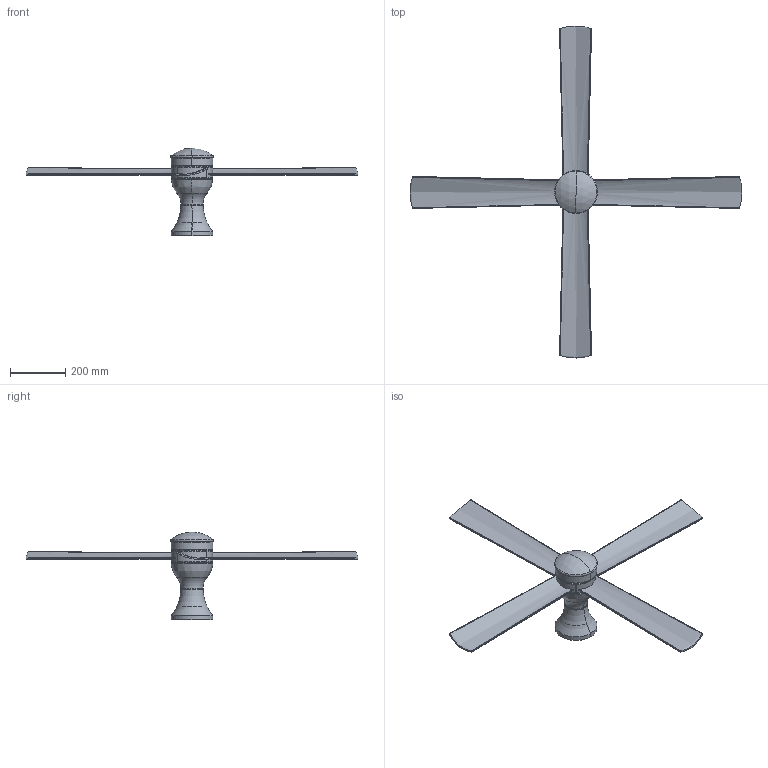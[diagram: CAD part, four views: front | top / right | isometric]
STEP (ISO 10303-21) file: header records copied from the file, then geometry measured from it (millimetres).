
FILE_DESCRIPTION(/* description */ (''),/* implementation_level */ '2;1');
FILE_NAME(/* name */ 'C:\Users\FrancoSartori\Documents\FARO\01_En Proceso\00_FRASER\03_Publicación\33756.stp',/* time_stamp */ '2021-05-18T17:04:25+02:00',/* author */ ('FrancoSartori'),/* organization */ (''),/* preprocessor_version */ 'ST-DEVELOPER v18.1',/* originating_system */ 'AutoCAD Mechanical',/* authorisation */ '');
FILE_SCHEMA (('AUTOMOTIVE_DESIGN { 1 0 10303 214 3 1 1 }'));
Length unit declared in the file: millimetre
Products named in the file (2): Product; 33756_ 33756WP_ - fan-461054-_3D_
Assembly tree (1 placements, depth 2):
  Product
    33756_ 33756WP_ - fan-461054-_3D_
Bounding box: 1199.67 x 1199.67 x 317.18 mm (x, y, z)
Volume: 4418310.9 mm3; surface area: 790060 mm2
Topology: 7 solids, 7 shells, 180 faces, 478 edges, 324 vertices
Faces by surface type: plane 64, cylinder 54, bspline 34, torus 26, sphere 2
Entity records: 8744 total; most frequent: CARTESIAN_POINT 4632, ORIENTED_EDGE 956, DIRECTION 641, EDGE_CURVE 478, VERTEX_POINT 324, AXIS2_PLACEMENT_3D 223, B_SPLINE_CURVE_WITH_KNOTS 209, LINE 195
